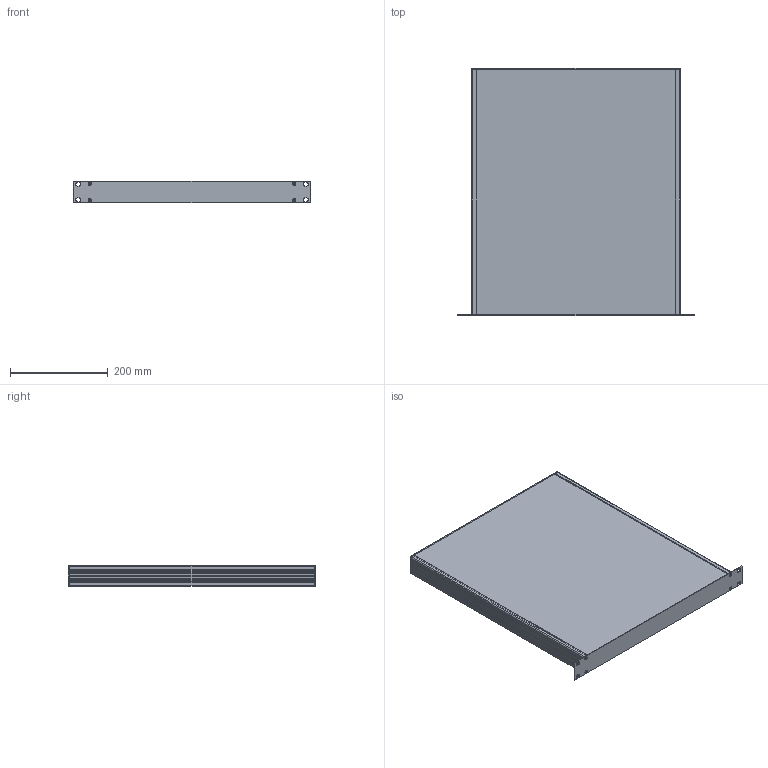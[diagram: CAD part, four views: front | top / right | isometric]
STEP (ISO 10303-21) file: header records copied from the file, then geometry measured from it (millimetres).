
FILE_DESCRIPTION(/* description */ (''),/* implementation_level */ '2;1');
FILE_NAME(/* name */ '//diskstation/Kunden/Gehäuse/Gehäuse/1HE/step/500.step',/* time_stamp */ '2022-02-17T15:21:55+01:00',/* author */ (''),/* organization */ (''),/* preprocessor_version */ 'ST-DEVELOPER v18.1',/* originating_system */ 'Autodesk Translation Framework v10.10.0.1391',/* authorisation */ '');
FILE_SCHEMA (('AUTOMOTIVE_DESIGN { 1 0 10303 214 3 1 1 }'));
Length unit declared in the file: millimetre
Products named in the file (7): 1HE Gehäuse mit Parameter (Seitenteilprofil); Frontplatte; Gehäuse; Seitenteilprofil; Rückplatte; Deckel; Bodenplatte
Assembly tree (7 placements, depth 3):
  1HE Gehäuse mit Parameter (Seitenteilprofil)
    Frontplatte
    Gehäuse
      Seitenteilprofil  x2
      Rückplatte
      Deckel
      Bodenplatte
Bounding box: 483 x 505 x 43.6 mm (x, y, z)
Volume: 1289088.8 mm3; surface area: 1093505.1 mm2
Topology: 6 solids, 6 shells, 252 faces, 712 edges, 472 vertices
Faces by surface type: plane 158, cylinder 86, cone 8
Full cylindrical faces by diameter (mm): 3 x4, 3.2 x8
Entity records: 5633 total; most frequent: CARTESIAN_POINT 956, DIRECTION 952, ORIENTED_EDGE 932, EDGE_CURVE 466, LINE 344, VECTOR 344, VERTEX_POINT 308, AXIS2_PLACEMENT_3D 304
